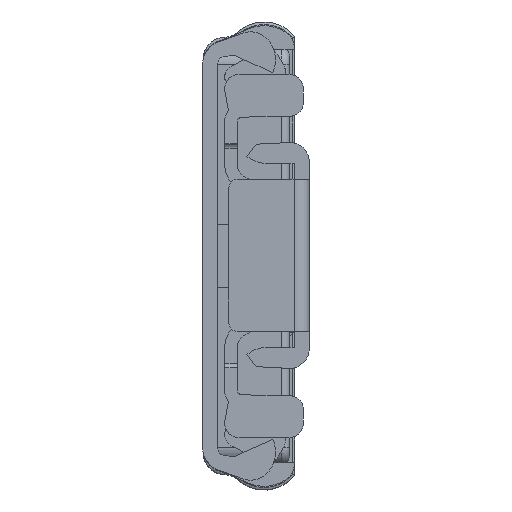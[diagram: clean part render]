
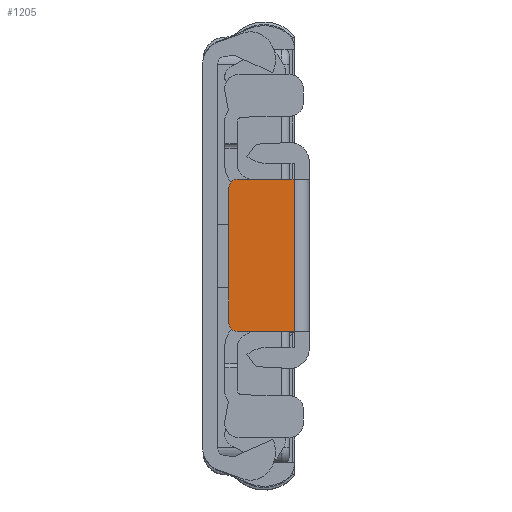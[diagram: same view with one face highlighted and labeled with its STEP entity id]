
A CAD part, front view. The second image highlights one B-rep face of the part: STEP entity #1205.
In plain terms, the highlighted planar face has unit normal (0, -1, 0).
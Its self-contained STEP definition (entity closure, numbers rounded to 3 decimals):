
#1205 = ADVANCED_FACE( '', ( #2654 ), #2655, .T. );
#2654 = FACE_OUTER_BOUND( '', #4444, .T. );
#2655 = PLANE( '', #4445 );
#4444 = EDGE_LOOP( '', ( #7676, #7677, #7678, #7679, #7680, #7681 ) );
#4445 = AXIS2_PLACEMENT_3D( '', #7682, #7683, #7684 );
#7676 = ORIENTED_EDGE( '', *, *, #11735, .T. );
#7677 = ORIENTED_EDGE( '', *, *, #11736, .T. );
#7678 = ORIENTED_EDGE( '', *, *, #11194, .T. );
#7679 = ORIENTED_EDGE( '', *, *, #11737, .T. );
#7680 = ORIENTED_EDGE( '', *, *, #11164, .T. );
#7681 = ORIENTED_EDGE( '', *, *, #11738, .T. );
#7682 = CARTESIAN_POINT( '', ( -9., -275.302, -2.366 ) );
#7683 = DIRECTION( '', ( 0., -1., 0. ) );
#7684 = DIRECTION( '', ( 0., 0., -1. ) );
#11164 = EDGE_CURVE( '', #13674, #13672, #13675, .T. );
#11194 = EDGE_CURVE( '', #13724, #13725, #13726, .T. );
#11735 = EDGE_CURVE( '', #14545, #14546, #14547, .T. );
#11736 = EDGE_CURVE( '', #14546, #13724, #14548, .T. );
#11737 = EDGE_CURVE( '', #13725, #13674, #14549, .T. );
#11738 = EDGE_CURVE( '', #13672, #14545, #14550, .T. );
#13672 = VERTEX_POINT( '', #17100 );
#13674 = VERTEX_POINT( '', #17103 );
#13675 = LINE( '', #17104, #17105 );
#13724 = VERTEX_POINT( '', #17170 );
#13725 = VERTEX_POINT( '', #17171 );
#13726 = LINE( '', #17172, #17173 );
#14545 = VERTEX_POINT( '', #18305 );
#14546 = VERTEX_POINT( '', #18306 );
#14547 = LINE( '', #18307, #18308 );
#14548 = CIRCLE( '', #18309, 1. );
#14549 = LINE( '', #18310, #18311 );
#14550 = CIRCLE( '', #18312, 1. );
#17100 = CARTESIAN_POINT( '', ( 9., -275.302, 4.8 ) );
#17103 = CARTESIAN_POINT( '', ( 9., -275.302, -1.898 ) );
#17104 = CARTESIAN_POINT( '', ( 9., -275.302, -2.366 ) );
#17105 = VECTOR( '', #20556, 1000. );
#17170 = CARTESIAN_POINT( '', ( -9., -275.302, 4.8 ) );
#17171 = CARTESIAN_POINT( '', ( -9., -275.302, -1.898 ) );
#17172 = CARTESIAN_POINT( '', ( -9., -275.302, -2.366 ) );
#17173 = VECTOR( '', #20594, 1000. );
#18305 = CARTESIAN_POINT( '', ( 8., -275.302, 5.8 ) );
#18306 = CARTESIAN_POINT( '', ( -8., -275.302, 5.8 ) );
#18307 = CARTESIAN_POINT( '', ( 9., -275.302, 5.8 ) );
#18308 = VECTOR( '', #21319, 1000. );
#18309 = AXIS2_PLACEMENT_3D( '', #21320, #21321, #21322 );
#18310 = CARTESIAN_POINT( '', ( -9., -275.302, -1.898 ) );
#18311 = VECTOR( '', #21323, 1000. );
#18312 = AXIS2_PLACEMENT_3D( '', #21324, #21325, #21326 );
#20556 = DIRECTION( '', ( 0., 0., 1. ) );
#20594 = DIRECTION( '', ( 0., 0., -1. ) );
#21319 = DIRECTION( '', ( -1., 0., 0. ) );
#21320 = CARTESIAN_POINT( '', ( -8., -275.302, 4.8 ) );
#21321 = DIRECTION( '', ( 0., -1., 0. ) );
#21322 = DIRECTION( '', ( 0., 0., -1. ) );
#21323 = DIRECTION( '', ( 1., 0., 0. ) );
#21324 = CARTESIAN_POINT( '', ( 8., -275.302, 4.8 ) );
#21325 = DIRECTION( '', ( 0., -1., 0. ) );
#21326 = DIRECTION( '', ( 0., 0., -1. ) );
